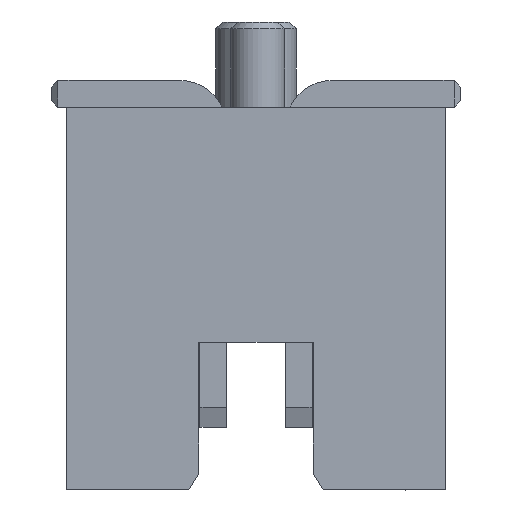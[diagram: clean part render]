
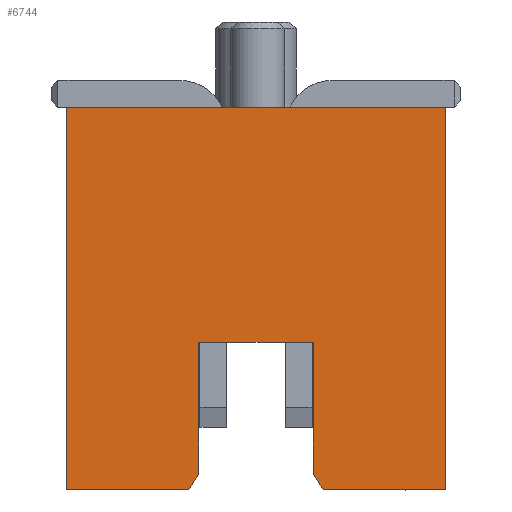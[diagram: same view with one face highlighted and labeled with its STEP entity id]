
A CAD part, front view. The second image highlights one B-rep face of the part: STEP entity #6744.
In plain terms, the highlighted planar face has unit normal (0, -1, 0).
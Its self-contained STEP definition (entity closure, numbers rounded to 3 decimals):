
#117 = VERTEX_POINT ( 'NONE', #6339 ) ;
#118 = VERTEX_POINT ( 'NONE', #6340 ) ;
#120 = VERTEX_POINT ( 'NONE', #6342 ) ;
#121 = VERTEX_POINT ( 'NONE', #6344 ) ;
#124 = VERTEX_POINT ( 'NONE', #6347 ) ;
#125 = VERTEX_POINT ( 'NONE', #6348 ) ;
#127 = VERTEX_POINT ( 'NONE', #6350 ) ;
#131 = VERTEX_POINT ( 'NONE', #6356 ) ;
#134 = VERTEX_POINT ( 'NONE', #6361 ) ;
#141 = VERTEX_POINT ( 'NONE', #6370 ) ;
#1854 = EDGE_CURVE ( 'NONE', #118, #121, #12391, .T. ) ;
#1879 = EDGE_CURVE ( 'NONE', #141, #127, #12477, .T. ) ;
#1936 = EDGE_CURVE ( 'NONE', #121, #120, #12703, .T. ) ;
#1997 = EDGE_CURVE ( 'NONE', #117, #118, #12886, .T. ) ;
#2046 = EDGE_CURVE ( 'NONE', #120, #124, #13033, .T. ) ;
#4411 = VECTOR ( 'NONE', #12412, 1000. ) ;
#4420 = VECTOR ( 'NONE', #12487, 1000. ) ;
#5856 = AXIS2_PLACEMENT_3D ( 'NONE', #8225, #8226, #8228 ) ;
#5898 = VECTOR ( 'NONE', #8432, 1000. ) ;
#6302 = EDGE_CURVE ( 'NONE', #124, #125, #10124, .T. ) ;
#6339 = CARTESIAN_POINT ( 'NONE',  ( 0.825, -14.3, -0.65 ) ) ;
#6340 = CARTESIAN_POINT ( 'NONE',  ( -0.875, -14.3, -0.65 ) ) ;
#6342 = CARTESIAN_POINT ( 'NONE',  ( -1.025, -14.3, -2.85 ) ) ;
#6344 = CARTESIAN_POINT ( 'NONE',  ( -0.875, -14.3, -2.6 ) ) ;
#6347 = CARTESIAN_POINT ( 'NONE',  ( -2.85, -14.3, -2.85 ) ) ;
#6348 = CARTESIAN_POINT ( 'NONE',  ( -2.85, -14.3, 2.85 ) ) ;
#6350 = CARTESIAN_POINT ( 'NONE',  ( 2.8, -14.3, -2.85 ) ) ;
#6356 = CARTESIAN_POINT ( 'NONE',  ( 0.825, -14.3, -2.6 ) ) ;
#6361 = CARTESIAN_POINT ( 'NONE',  ( 0.975, -14.3, -2.85 ) ) ;
#6370 = CARTESIAN_POINT ( 'NONE',  ( 2.8, -14.3, 2.85 ) ) ;
#6525 = EDGE_CURVE ( 'NONE', #127, #134, #10376, .T. ) ;
#6744 = ADVANCED_FACE ( 'NONE', ( #8203 ), #8175, .F. ) ;
#6752 = EDGE_CURVE ( 'NONE', #134, #131, #8430, .T. ) ;
#7070 = EDGE_CURVE ( 'NONE', #131, #117, #10633, .T. ) ;
#8011 = VECTOR ( 'NONE', #10138, 1000. ) ;
#8175 = PLANE ( 'NONE',  #5856 ) ;
#8203 = FACE_OUTER_BOUND ( 'NONE', #17198, .T. ) ;
#8225 = CARTESIAN_POINT ( 'NONE',  ( -2.85, -14.3, -2.85 ) ) ;
#8226 = DIRECTION ( 'NONE',  ( 0., 1., 0. ) ) ;
#8228 = DIRECTION ( 'NONE',  ( 0., 0., 1. ) ) ;
#8430 = LINE ( 'NONE', #8431, #5898 ) ;
#8431 = CARTESIAN_POINT ( 'NONE',  ( 0.825, -14.3, -2.6 ) ) ;
#8432 = DIRECTION ( 'NONE',  ( -0.514, 0., 0.857 ) ) ;
#10124 = LINE ( 'NONE', #10137, #8011 ) ;
#10137 = CARTESIAN_POINT ( 'NONE',  ( -2.85, -14.3, 0. ) ) ;
#10138 = DIRECTION ( 'NONE',  ( 0., 0., 1. ) ) ;
#10376 = LINE ( 'NONE', #10377, #15559 ) ;
#10377 = CARTESIAN_POINT ( 'NONE',  ( -0.025, -14.3, -2.85 ) ) ;
#10378 = DIRECTION ( 'NONE',  ( -1., 0., 0. ) ) ;
#10633 = LINE ( 'NONE', #10635, #11914 ) ;
#10635 = CARTESIAN_POINT ( 'NONE',  ( 0.825, -14.3, 0. ) ) ;
#10636 = DIRECTION ( 'NONE',  ( 0., 0., 1. ) ) ;
#11224 = LINE ( 'NONE', #11225, #14843 ) ;
#11225 = CARTESIAN_POINT ( 'NONE',  ( -2.85, -14.3, 2.85 ) ) ;
#11226 = DIRECTION ( 'NONE',  ( 1., 0., 0. ) ) ;
#11914 = VECTOR ( 'NONE', #10636, 1000. ) ;
#12391 = LINE ( 'NONE', #12411, #4411 ) ;
#12411 = CARTESIAN_POINT ( 'NONE',  ( -0.875, -14.3, 0. ) ) ;
#12412 = DIRECTION ( 'NONE',  ( 0., 0., -1. ) ) ;
#12477 = LINE ( 'NONE', #12486, #4420 ) ;
#12486 = CARTESIAN_POINT ( 'NONE',  ( 2.8, -14.3, 0. ) ) ;
#12487 = DIRECTION ( 'NONE',  ( 0., 0., -1. ) ) ;
#12703 = LINE ( 'NONE', #12705, #15517 ) ;
#12705 = CARTESIAN_POINT ( 'NONE',  ( -1.025, -14.3, -2.85 ) ) ;
#12706 = DIRECTION ( 'NONE',  ( -0.514, 0., -0.857 ) ) ;
#12886 = LINE ( 'NONE', #12888, #15393 ) ;
#12888 = CARTESIAN_POINT ( 'NONE',  ( -0.025, -14.3, -0.65 ) ) ;
#12889 = DIRECTION ( 'NONE',  ( -1., 0., 0. ) ) ;
#13033 = LINE ( 'NONE', #13034, #15481 ) ;
#13034 = CARTESIAN_POINT ( 'NONE',  ( -0.025, -14.3, -2.85 ) ) ;
#13035 = DIRECTION ( 'NONE',  ( -1., 0., 0. ) ) ;
#13401 = ORIENTED_EDGE ( 'NONE', *, *, #6752, .F. ) ;
#13402 = ORIENTED_EDGE ( 'NONE', *, *, #6525, .F. ) ;
#13403 = ORIENTED_EDGE ( 'NONE', *, *, #1879, .F. ) ;
#13404 = ORIENTED_EDGE ( 'NONE', *, *, #16102, .F. ) ;
#13405 = ORIENTED_EDGE ( 'NONE', *, *, #6302, .F. ) ;
#13406 = ORIENTED_EDGE ( 'NONE', *, *, #2046, .F. ) ;
#13407 = ORIENTED_EDGE ( 'NONE', *, *, #1936, .F. ) ;
#13408 = ORIENTED_EDGE ( 'NONE', *, *, #1854, .F. ) ;
#13409 = ORIENTED_EDGE ( 'NONE', *, *, #1997, .F. ) ;
#13410 = ORIENTED_EDGE ( 'NONE', *, *, #7070, .F. ) ;
#14843 = VECTOR ( 'NONE', #11226, 1000. ) ;
#15393 = VECTOR ( 'NONE', #12889, 1000. ) ;
#15481 = VECTOR ( 'NONE', #13035, 1000. ) ;
#15517 = VECTOR ( 'NONE', #12706, 1000. ) ;
#15559 = VECTOR ( 'NONE', #10378, 1000. ) ;
#16102 = EDGE_CURVE ( 'NONE', #125, #141, #11224, .T. ) ;
#17198 = EDGE_LOOP ( 'NONE', ( #13401, #13402, #13403, #13404, #13405, #13406, #13407, #13408, #13409, #13410 ) ) ;
